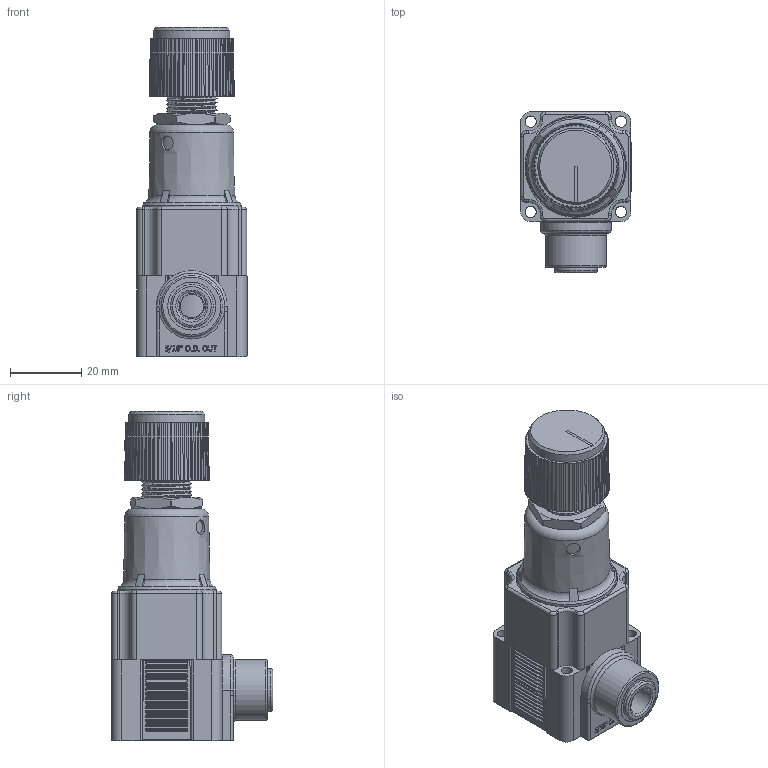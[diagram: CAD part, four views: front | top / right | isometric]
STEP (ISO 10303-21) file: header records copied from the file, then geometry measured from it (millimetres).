
FILE_DESCRIPTION(/* description */ (''),/* implementation_level */ '2;1');
FILE_NAME(/* name */ 'K:\Normteile INVENTOR\Air-Logic\Regulators\NR4000\NR 4___ 6 Push-In Fittings for 5''16 O.D. Tube Out.igs.ipt.stp',/* time_stamp */ '2020-05-27T10:51:05+02:00',/* author */ ('Paul'),/* organization */ (''),/* preprocessor_version */ 'ST-DEVELOPER v18',/* originating_system */ 'Autodesk Inventor 2020',/* authorisation */ '');
FILE_SCHEMA (('AUTOMOTIVE_DESIGN { 1 0 10303 214 3 1 1 }'));
Length unit declared in the file: inch
Products named in the file (1): NR 4___ 6 Push-In Fittings for 5'16 O.D. Tube Out.igs
Bounding box: 31.06 x 45.41 x 92.65 mm (x, y, z)
Volume: 57759.6 mm3; surface area: 19928.7 mm2
Topology: 1 solids, 1 shells, 1061 faces, 2735 edges, 1754 vertices
Faces by surface type: plane 518, cylinder 333, bspline 102, cone 82, torus 26
Full cylindrical faces by diameter (mm): 3.175 x4, 3.988 x1, 4.039 x1, 4.064 x1, 7.061 x1, 8.001 x1, 9.169 x1, 9.398 x1, 11.972 x1, 12.014 x1, 12.903 x1, 13.513 x1, 14.288 x2, 17.094 x1, 19.406 x1, 21.476 x1, 26.264 x1, 27.94 x1, 28.575 x1
Entity records: 41621 total; most frequent: CARTESIAN_POINT 14605, ORIENTED_EDGE 5470, DIRECTION 5374, EDGE_CURVE 2735, AXIS2_PLACEMENT_3D 2002, VERTEX_POINT 1754, LINE 1370, VECTOR 1370
